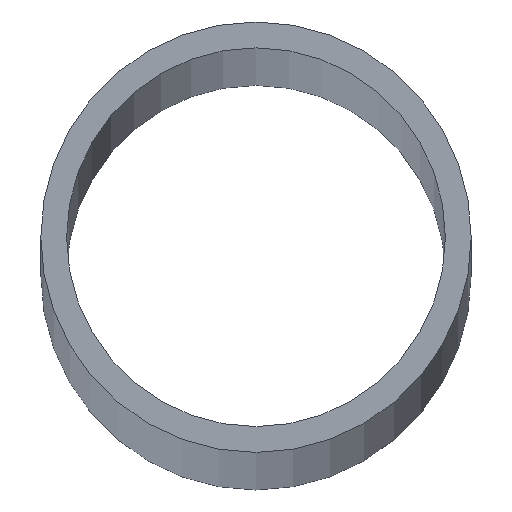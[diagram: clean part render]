
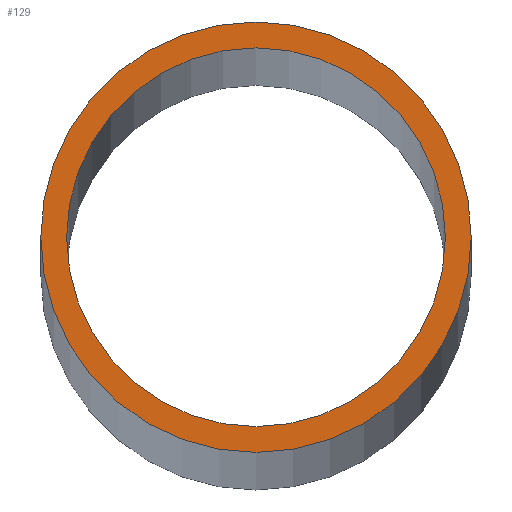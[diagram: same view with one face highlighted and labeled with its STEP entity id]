
A CAD part, top view. The second image highlights one B-rep face of the part: STEP entity #129.
In plain terms, the highlighted planar face has unit normal (0, 0, 1).
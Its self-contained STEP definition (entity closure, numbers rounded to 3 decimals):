
#1 = AXIS2_PLACEMENT_3D ( 'NONE', #9, #154, #37 ) ;
#6 = DIRECTION ( 'NONE',  ( 0., 0., 1. ) ) ;
#9 = CARTESIAN_POINT ( 'NONE',  ( 0., 0., 1000. ) ) ;
#13 = ORIENTED_EDGE ( 'NONE', *, *, #47, .T. ) ;
#20 = CARTESIAN_POINT ( 'NONE',  ( 8.8, 0., 1000. ) ) ;
#23 = DIRECTION ( 'NONE',  ( 0., 0., 1. ) ) ;
#32 = CARTESIAN_POINT ( 'NONE',  ( 0., 0., 1000. ) ) ;
#37 = DIRECTION ( 'NONE',  ( 1., 0., 0. ) ) ;
#38 = CIRCLE ( 'NONE', #56, 8.8 ) ;
#39 = DIRECTION ( 'NONE',  ( 1., 0., 0. ) ) ;
#43 = FACE_OUTER_BOUND ( 'NONE', #82, .T. ) ;
#47 = EDGE_CURVE ( 'NONE', #160, #50, #72, .T. ) ;
#50 = VERTEX_POINT ( 'NONE', #149 ) ;
#56 = AXIS2_PLACEMENT_3D ( 'NONE', #66, #6, #117 ) ;
#62 = CIRCLE ( 'NONE', #77, 10. ) ;
#66 = CARTESIAN_POINT ( 'NONE',  ( 0., 0., 1000. ) ) ;
#72 = CIRCLE ( 'NONE', #212, 10. ) ;
#77 = AXIS2_PLACEMENT_3D ( 'NONE', #210, #170, #39 ) ;
#80 = FACE_BOUND ( 'NONE', #130, .T. ) ;
#82 = EDGE_LOOP ( 'NONE', ( #213, #13 ) ) ;
#97 = DIRECTION ( 'NONE',  ( 1., 0., 0. ) ) ;
#106 = VERTEX_POINT ( 'NONE', #120 ) ;
#107 = AXIS2_PLACEMENT_3D ( 'NONE', #32, #23, #115 ) ;
#108 = CIRCLE ( 'NONE', #1, 8.8 ) ;
#115 = DIRECTION ( 'NONE',  ( 1., 0., 0. ) ) ;
#117 = DIRECTION ( 'NONE',  ( 1., 0., 0. ) ) ;
#120 = CARTESIAN_POINT ( 'NONE',  ( -8.8, 0., 1000. ) ) ;
#126 = VERTEX_POINT ( 'NONE', #20 ) ;
#129 = ADVANCED_FACE ( 'NONE', ( #43, #80 ), #134, .T. ) ;
#130 = EDGE_LOOP ( 'NONE', ( #196, #162 ) ) ;
#134 = PLANE ( 'NONE',  #107 ) ;
#146 = CARTESIAN_POINT ( 'NONE',  ( 10., 0., 1000. ) ) ;
#149 = CARTESIAN_POINT ( 'NONE',  ( -10., 0., 1000. ) ) ;
#154 = DIRECTION ( 'NONE',  ( 0., 0., 1. ) ) ;
#160 = VERTEX_POINT ( 'NONE', #146 ) ;
#162 = ORIENTED_EDGE ( 'NONE', *, *, #190, .F. ) ;
#168 = DIRECTION ( 'NONE',  ( 0., 0., 1. ) ) ;
#170 = DIRECTION ( 'NONE',  ( 0., 0., 1. ) ) ;
#172 = EDGE_CURVE ( 'NONE', #106, #126, #38, .T. ) ;
#187 = EDGE_CURVE ( 'NONE', #50, #160, #62, .T. ) ;
#190 = EDGE_CURVE ( 'NONE', #126, #106, #108, .T. ) ;
#196 = ORIENTED_EDGE ( 'NONE', *, *, #172, .F. ) ;
#204 = CARTESIAN_POINT ( 'NONE',  ( 0., 0., 1000. ) ) ;
#210 = CARTESIAN_POINT ( 'NONE',  ( 0., 0., 1000. ) ) ;
#212 = AXIS2_PLACEMENT_3D ( 'NONE', #204, #168, #97 ) ;
#213 = ORIENTED_EDGE ( 'NONE', *, *, #187, .T. ) ;
